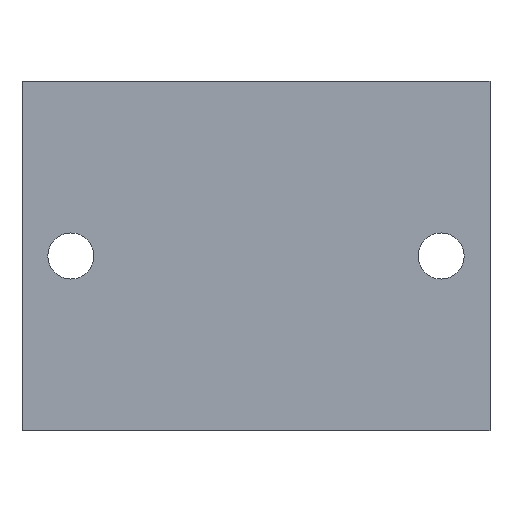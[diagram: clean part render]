
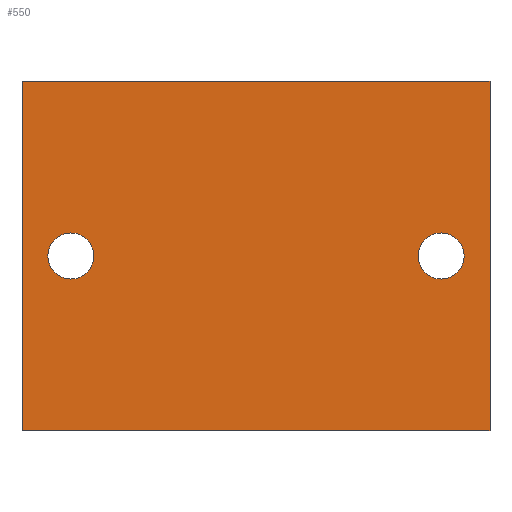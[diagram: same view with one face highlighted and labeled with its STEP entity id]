
A CAD part, front view. The second image highlights one B-rep face of the part: STEP entity #550.
In plain terms, the highlighted planar face has unit normal (0, -1, 0).
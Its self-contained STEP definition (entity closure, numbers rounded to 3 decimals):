
#6 = AXIS2_PLACEMENT_3D ( 'NONE', #120, #334, #589 ) ;
#8 = DIRECTION ( 'NONE',  ( 0., -1., 0. ) ) ;
#17 = CARTESIAN_POINT ( 'NONE',  ( -26.5, -30., 0. ) ) ;
#28 = CARTESIAN_POINT ( 'NONE',  ( -33.5, -30., 25. ) ) ;
#46 = CARTESIAN_POINT ( 'NONE',  ( -33.5, -30., 25. ) ) ;
#54 = FACE_BOUND ( 'NONE', #400, .T. ) ;
#59 = AXIS2_PLACEMENT_3D ( 'NONE', #271, #466, #405 ) ;
#63 = ORIENTED_EDGE ( 'NONE', *, *, #751, .F. ) ;
#74 = CARTESIAN_POINT ( 'NONE',  ( 33.5, -30., 25. ) ) ;
#75 = EDGE_CURVE ( 'NONE', #631, #206, #609, .T. ) ;
#76 = CARTESIAN_POINT ( 'NONE',  ( -33.5, -30., -25. ) ) ;
#90 = ORIENTED_EDGE ( 'NONE', *, *, #130, .F. ) ;
#94 = CARTESIAN_POINT ( 'NONE',  ( -26.5, -30., -3.3 ) ) ;
#95 = EDGE_CURVE ( 'NONE', #135, #837, #163, .T. ) ;
#115 = DIRECTION ( 'NONE',  ( 0., 0., -1. ) ) ;
#120 = CARTESIAN_POINT ( 'NONE',  ( -33.5, -30., 25. ) ) ;
#130 = EDGE_CURVE ( 'NONE', #761, #729, #703, .T. ) ;
#133 = CARTESIAN_POINT ( 'NONE',  ( 26.5, -30., -3.3 ) ) ;
#135 = VERTEX_POINT ( 'NONE', #133 ) ;
#138 = CARTESIAN_POINT ( 'NONE',  ( -33.5, -30., 25. ) ) ;
#139 = ORIENTED_EDGE ( 'NONE', *, *, #511, .F. ) ;
#154 = VERTEX_POINT ( 'NONE', #138 ) ;
#163 = CIRCLE ( 'NONE', #871, 3.3 ) ;
#205 = EDGE_CURVE ( 'NONE', #729, #761, #442, .T. ) ;
#206 = VERTEX_POINT ( 'NONE', #807 ) ;
#241 = EDGE_LOOP ( 'NONE', ( #559, #139, #63, #431 ) ) ;
#245 = VECTOR ( 'NONE', #691, 1000. ) ;
#259 = DIRECTION ( 'NONE',  ( 0., 0., -1. ) ) ;
#271 = CARTESIAN_POINT ( 'NONE',  ( -26.5, -30., 0. ) ) ;
#277 = DIRECTION ( 'NONE',  ( 0., -1., 0. ) ) ;
#290 = CIRCLE ( 'NONE', #773, 3.3 ) ;
#325 = DIRECTION ( 'NONE',  ( 0., 0., -1. ) ) ;
#327 = EDGE_CURVE ( 'NONE', #837, #135, #290, .T. ) ;
#330 = LINE ( 'NONE', #656, #675 ) ;
#334 = DIRECTION ( 'NONE',  ( 0., 1., 0. ) ) ;
#361 = CARTESIAN_POINT ( 'NONE',  ( 26.5, -30., 0. ) ) ;
#379 = LINE ( 'NONE', #46, #852 ) ;
#386 = ORIENTED_EDGE ( 'NONE', *, *, #205, .F. ) ;
#396 = ORIENTED_EDGE ( 'NONE', *, *, #95, .F. ) ;
#400 = EDGE_LOOP ( 'NONE', ( #396, #551 ) ) ;
#405 = DIRECTION ( 'NONE',  ( 0., 0., -1. ) ) ;
#431 = ORIENTED_EDGE ( 'NONE', *, *, #818, .T. ) ;
#438 = CARTESIAN_POINT ( 'NONE',  ( 26.5, -30., 3.3 ) ) ;
#442 = CIRCLE ( 'NONE', #667, 3.3 ) ;
#454 = FACE_BOUND ( 'NONE', #810, .T. ) ;
#465 = PLANE ( 'NONE',  #6 ) ;
#466 = DIRECTION ( 'NONE',  ( 0., -1., 0. ) ) ;
#511 = EDGE_CURVE ( 'NONE', #660, #206, #330, .T. ) ;
#514 = DIRECTION ( 'NONE',  ( 0., -1., 0. ) ) ;
#550 = ADVANCED_FACE ( 'NONE', ( #454, #54, #719 ), #465, .F. ) ;
#551 = ORIENTED_EDGE ( 'NONE', *, *, #327, .F. ) ;
#559 = ORIENTED_EDGE ( 'NONE', *, *, #75, .T. ) ;
#589 = DIRECTION ( 'NONE',  ( 0., 0., 1. ) ) ;
#609 = LINE ( 'NONE', #814, #848 ) ;
#631 = VERTEX_POINT ( 'NONE', #76 ) ;
#656 = CARTESIAN_POINT ( 'NONE',  ( 33.5, -30., 25. ) ) ;
#660 = VERTEX_POINT ( 'NONE', #74 ) ;
#667 = AXIS2_PLACEMENT_3D ( 'NONE', #17, #277, #740 ) ;
#675 = VECTOR ( 'NONE', #259, 1000. ) ;
#679 = CARTESIAN_POINT ( 'NONE',  ( -26.5, -30., 3.3 ) ) ;
#683 = DIRECTION ( 'NONE',  ( 1., 0., 0. ) ) ;
#691 = DIRECTION ( 'NONE',  ( 1., 0., 0. ) ) ;
#703 = CIRCLE ( 'NONE', #59, 3.3 ) ;
#719 = FACE_OUTER_BOUND ( 'NONE', #241, .T. ) ;
#729 = VERTEX_POINT ( 'NONE', #679 ) ;
#740 = DIRECTION ( 'NONE',  ( 0., 0., -1. ) ) ;
#751 = EDGE_CURVE ( 'NONE', #154, #660, #753, .T. ) ;
#752 = DIRECTION ( 'NONE',  ( 0., 0., -1. ) ) ;
#753 = LINE ( 'NONE', #28, #245 ) ;
#761 = VERTEX_POINT ( 'NONE', #94 ) ;
#773 = AXIS2_PLACEMENT_3D ( 'NONE', #861, #514, #115 ) ;
#807 = CARTESIAN_POINT ( 'NONE',  ( 33.5, -30., -25. ) ) ;
#810 = EDGE_LOOP ( 'NONE', ( #90, #386 ) ) ;
#814 = CARTESIAN_POINT ( 'NONE',  ( -33.5, -30., -25. ) ) ;
#818 = EDGE_CURVE ( 'NONE', #154, #631, #379, .T. ) ;
#837 = VERTEX_POINT ( 'NONE', #438 ) ;
#848 = VECTOR ( 'NONE', #683, 1000. ) ;
#852 = VECTOR ( 'NONE', #325, 1000. ) ;
#861 = CARTESIAN_POINT ( 'NONE',  ( 26.5, -30., 0. ) ) ;
#871 = AXIS2_PLACEMENT_3D ( 'NONE', #361, #8, #752 ) ;
